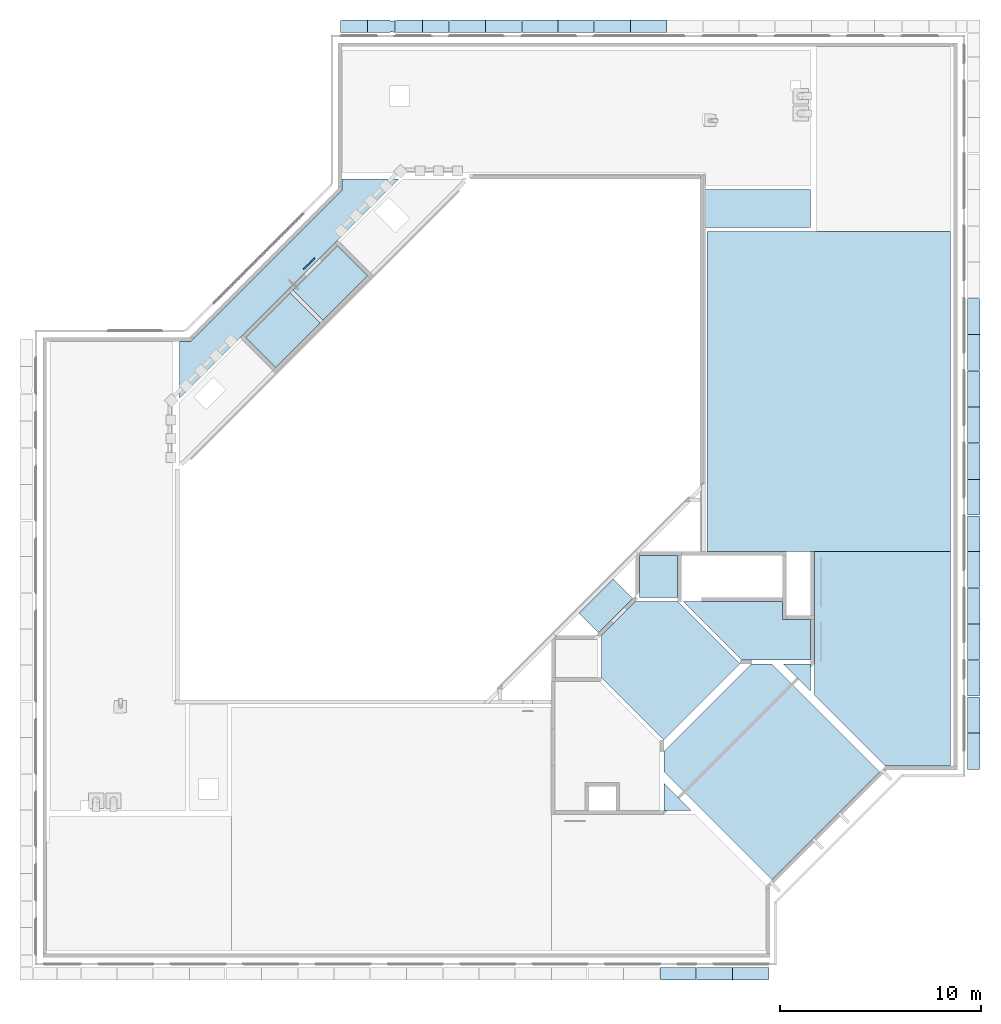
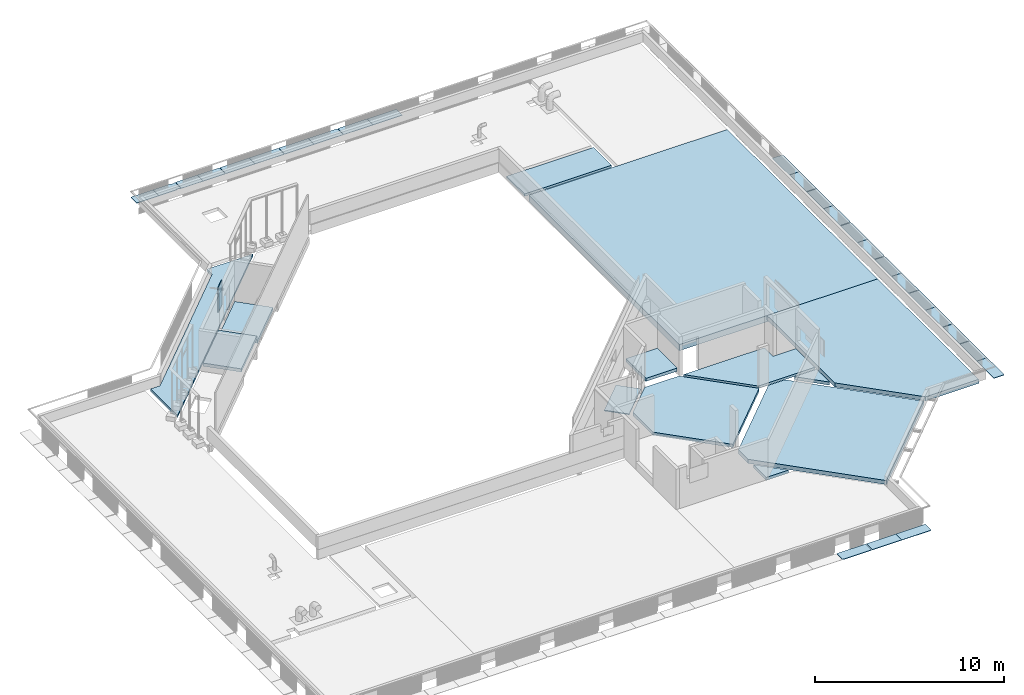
# One storey, part 6 of 37: 39 slabs, 1 plate.
"""IFC4X3_ADD2 building model written with IfcOpenShell, lengths in millimetres."""

from ifc_helpers import new_model, si_unit, direction, frame, frame_2d, origin_with_axes, origin_2d_with_axis, place, context, subcontext, project, spatial, polyline, rectangle, outline, extrude, source, transform, mapped, material, type_object, element, save


model = new_model("IFC4X3_ADD2")

# Units and contexts
model_context = context("Model", 3, precision=1e-05, world=origin_with_axes(), true_north=direction((0.0, 1.0)))
body_context = subcontext(model_context, "Body", "Model", "MODEL_VIEW")
ifc_project = project(units=[si_unit("LENGTHUNIT", "METRE", prefix="MILLI"), si_unit("AREAUNIT", "SQUARE_METRE"), si_unit("VOLUMEUNIT", "CUBIC_METRE"), si_unit("PLANEANGLEUNIT", "RADIAN"), si_unit("TIMEUNIT", "SECOND"), si_unit("MASSUNIT", "GRAM")], contexts=[model_context])

# Site, building, storey
site_placement = place(None, origin_with_axes())
site = spatial("IfcSite", under=ifc_project, at=site_placement, Name="Site", CompositionType="ELEMENT")
building_placement = place(site_placement, origin_with_axes())
building = spatial("IfcBuilding", under=site, at=building_placement, Name="IFC Building Story")
storey_placement = place(building_placement, frame((0.0, 0.0, 14400.0), z_axis=(0.0, 0.0, 1.0), x_axis=(1.0, 0.0, 0.0)))
storey = spatial("IfcBuildingStorey", under=building, at=storey_placement, Name="040", Elevation=14400.0)

# Slabs
ifc_material_1 = material(Name="BB_Beton_Bestaand")
slab_type_1 = type_object("IfcSlabType", Name="BB_Beton_Bestaand 200", PredefinedType="FLOOR", material=ifc_material_1)
slab_1_placement = place(storey_placement, frame((-33073.67225995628, 32939.32197153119, 0.0), z_axis=(0.0, 0.0, 1.0), x_axis=(-0.7071067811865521, -0.707106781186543, 0.0)))
element("IfcSlab", 1, at=slab_1_placement, inside=storey, type_object=slab_type_1, Name="Floor:BB_XX_Vloer uit beton, 200 mm", ObjectType="Floor:BB_XX_Vloer uit beton, 200 mm", PredefinedType="FLOOR", context=body_context, shape_type="SweptSolid", body=[
    extrude(rectangle(XDim=3140.000000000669, YDim=2099.999999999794, at=frame_2d((0.0, 0.0), x_axis=(-1.0, 0.0))), frame((1570.000000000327, 1049.999999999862, 0.0), z_axis=(0.0, 0.0, 1.0), x_axis=(1.0, 0.0, 0.0)), (0.0, 0.0, 1.0), 200.0),
])
slab_2_placement = place(storey_placement, frame((-8567.695526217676, 14499.99999999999, -400.0), z_axis=(0.0, 0.0, 1.0), x_axis=(0.7071067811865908, -0.7071067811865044, 0.0)))
element("IfcSlab", 2, at=slab_2_placement, inside=storey, type_object=slab_type_1, Name="Floor:BB_XX_Vloer uit beton, 200 mm", ObjectType="Floor:BB_XX_Vloer uit beton, 200 mm", PredefinedType="FLOOR", context=body_context, shape_type="SweptSolid", body=[
    extrude(outline(polyline([(967.10678118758, -322.3689270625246), (-967.10678118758, -322.3689270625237), (0.0, 644.7378541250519), (967.10678118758, -322.3689270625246)])), frame((967.10678118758, 322.3689270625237, 0.0), z_axis=(0.0, 0.0, 1.0), x_axis=(1.0, 0.0, 0.0)), (0.0, 0.0, 1.0), 200.0),
])
slab_3_placement = place(storey_placement, frame((-18649.99999999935, 14864.99999999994, -400.0), z_axis=(0.0, 0.0, 1.0), x_axis=(0.7071067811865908, -0.7071067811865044, 0.0)))
element("IfcSlab", 3, at=slab_3_placement, inside=storey, type_object=slab_type_1, Name="Floor:BB_XX_Vloer welfsels, 200 mm", ObjectType="Floor:BB_XX_Vloer welfsels, 200 mm", PredefinedType="FLOOR", context=body_context, shape_type="SweptSolid", body=[
    extrude(outline(polyline([(3417.682775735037, 2676.399166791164), (3417.682775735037, -2676.399166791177), (-966.3792676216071, -2676.399166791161), (-2451.303508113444, -1191.474926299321), (-2451.303508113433, 1191.474926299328), (-966.379267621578, 2676.399166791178), (3417.682775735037, 2676.399166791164)])), frame((2451.303508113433, 2676.399166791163, 1.818989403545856e-12), z_axis=(0.0, 0.0, 1.0), x_axis=(1.0, 0.0, 0.0)), (0.0, 0.0, 1.0), 200.0),
])
slab_4_placement = place(storey_placement, frame((-15725.0, 19899.99999999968, 0.0), z_axis=(0.0, 0.0, 1.0), x_axis=(0.0, -1.0, 0.0)))
element("IfcSlab", 4, at=slab_4_placement, inside=storey, type_object=slab_type_1, Name="Floor:BB_XX_Vloer uit beton, 200 mm", ObjectType="Floor:BB_XX_Vloer uit beton, 200 mm", PredefinedType="FLOOR", context=body_context, shape_type="SweptSolid", body=[
    extrude(rectangle(XDim=2109.999999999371, YDim=1910.000000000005, at=frame_2d((0.0, 0.0), x_axis=(-1.0, 0.0))), frame((1054.999999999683, 955.0000000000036, 0.0), z_axis=(0.0, 0.0, 1.0), x_axis=(1.0, 0.0, 0.0)), (0.0, 0.0, 1.0), 200.0),
])
slab_5_placement = place(storey_placement, frame((-30719.00667860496, 35293.98755288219, -400.0), z_axis=(0.0, 0.0, 1.0), x_axis=(-0.7071067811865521, -0.707106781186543, 0.0)))
element("IfcSlab", 5, at=slab_5_placement, inside=storey, type_object=slab_type_1, Name="Floor:BB_XX_Vloer uit beton, 200 mm", ObjectType="Floor:BB_XX_Vloer uit beton, 200 mm", PredefinedType="FLOOR", context=body_context, shape_type="SweptSolid", body=[
    extrude(rectangle(XDim=3139.999999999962, YDim=2099.99999999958, at=frame_2d((0.0, 0.0), x_axis=(-1.0, 0.0))), frame((1569.999999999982, 1049.999999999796, 0.0), z_axis=(0.0, 0.0, 1.0), x_axis=(1.0, 0.0, 0.0)), (0.0, 0.0, 1.0), 200.0),
])
slab_6_placement = place(storey_placement, frame((-15182.69111140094, 7882.691111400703, -400.0), z_axis=(0.0, 0.0, 1.0), x_axis=(0.7071067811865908, -0.7071067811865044, 0.0)))
element("IfcSlab", 6, at=slab_6_placement, inside=storey, type_object=slab_type_1, Name="Floor:BB_XX_Vloer uit beton, 200 mm", ObjectType="Floor:BB_XX_Vloer uit beton, 200 mm", PredefinedType="FLOOR", context=body_context, shape_type="SweptSolid", body=[
    extrude(outline(polyline([(-965.4710286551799, 321.8236762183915), (965.4710286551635, 321.8236762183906), (2.000888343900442e-11, -643.6473524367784), (-965.4710286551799, 321.8236762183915)])), frame((965.4710286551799, 643.6473524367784, 0.0), z_axis=(0.0, 0.0, 1.0), x_axis=(1.0, 0.0, 0.0)), (0.0, 0.0, 1.0), 200.0),
])
slab_type_2 = type_object("IfcSlabType", Name="BB_Beton_Bestaand 400", PredefinedType="FLOOR", material=ifc_material_1)
slab_7_placement = place(storey_placement, frame((-12355.00406588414, 36000.0000000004, -600.0), z_axis=(0.0, 0.0, 1.0), x_axis=(0.0, -1.0, 0.0)))
element("IfcSlab", 7, at=slab_7_placement, inside=storey, type_object=slab_type_2, Name="Floor:BB_XX_Vloer welfsels, 400 mm", ObjectType="Floor:BB_XX_Vloer welfsels, 400 mm", PredefinedType="FLOOR", context=body_context, shape_type="SweptSolid", body=[
    extrude(rectangle(XDim=15900.00000000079, YDim=12110.0040658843, at=frame_2d((0.0, 0.0), x_axis=(-1.0, 0.0))), frame((7950.0000000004, 6055.002032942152, 0.0), z_axis=(0.0, 0.0, 1.0), x_axis=(1.0, 0.0, 0.0)), (0.0, 0.0, 1.0), 400.0),
])

# Plate
ifc_material_2 = material(Name="BB_Metaal_Aluminium_Buitenschrijnwerk")
shared_shape = source(origin_with_axes(), body_context, "Body", "SweptSolid", [
    extrude(rectangle(XDim=1585.000000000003, YDim=778.000000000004, at=frame_2d((0.0, 0.0), x_axis=(0.0, 1.0))), frame((0.0, 0.0, -44.0), z_axis=(0.0, 0.0, 1.0), x_axis=(1.0, 0.0, 0.0)), (0.0, 0.0, 1.0), 44.0),
])
plate_placement = place(storey_placement, frame((-32157.2618715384, 34420.0035713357, 1176.5), z_axis=(-0.7071067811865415, 0.7071067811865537, 0.0), x_axis=(0.7071067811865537, 0.7071067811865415, 0.0)))
element("IfcPlate", 8, at=plate_placement, inside=storey, material=ifc_material_2, Name="BB_07.06_Buitenbeglazing, rechthoekig_GMO:07.04.63#01_Vulpaneel, 44 mm", ObjectType="BB_07.06_Buitenbeglazing, rechthoekig_GMO:07.04.63#01_Vulpaneel, 44 mm", PredefinedType="USERDEFINED", context=body_context, shape_type="MappedRepresentation", body=[
    mapped(shared_shape, transform((0.0, 0.0, 0.0))),
])

# Slabs
slab_type_3 = type_object("IfcSlabType", Name="BB_Beton_Bestaand 260", PredefinedType="FLOOR", material=ifc_material_1)
slab_8_placement = place(storey_placement, frame((-15009.12346364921, 9640.191111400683, -459.9999999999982), z_axis=(0.0, 0.0, 1.0), x_axis=(0.7071067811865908, -0.7071067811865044, 0.0)))
element("IfcSlab", 9, at=slab_8_placement, inside=storey, type_object=slab_type_3, Name="Floor:BB_XX_Vloer welfsels, 260 mm", ObjectType="Floor:BB_XX_Vloer welfsels, 260 mm", PredefinedType="FLOOR", context=body_context, shape_type="SweptSolid", body=[
    extrude(outline(polyline([(5300.035869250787, 3795.317972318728), (5300.035869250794, -3795.863223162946), (-2289.604342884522, -3795.863223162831), (-3009.613650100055, -3075.853915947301), (-3009.613650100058, 3076.944417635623), (-2291.240095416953, 3795.317972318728), (5300.035869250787, 3795.317972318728)])), frame((3009.613650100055, 3795.863223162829, 1.818989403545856e-12), z_axis=(0.0, 0.0, 1.0), x_axis=(1.0, 0.0, 0.0)), (0.0, 0.0, 1.0), 259.999999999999),
])
slab_9_placement = place(storey_placement, frame((-6999.99999999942, 20099.99999999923, -459.9999999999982), z_axis=(0.0, 0.0, 1.0), x_axis=(0.0, -1.0, 0.0)))
element("IfcSlab", 10, at=slab_9_placement, inside=storey, type_object=slab_type_3, Name="Floor:BB_XX_Vloer welfsels, 260 mm", ObjectType="Floor:BB_XX_Vloer welfsels, 260 mm", PredefinedType="FLOOR", context=body_context, shape_type="SweptSolid", body=[
    extrude(outline(polyline([(4977.460894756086, 3349.539105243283), (4977.460894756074, 111.8435790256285), (1460.156420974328, -3405.460894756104), (-5707.539105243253, -3405.460894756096), (-5707.539105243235, 3349.539105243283), (4977.460894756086, 3349.539105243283)])), frame((5707.539105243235, 3405.460894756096, 1.818989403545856e-12), z_axis=(0.0, 0.0, 1.0), x_axis=(1.0, 0.0, 0.0)), (0.0, 0.0, 1.0), 259.999999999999),
])
slab_type_4 = type_object("IfcSlabType", Name="BB_Beton_Bestaand 150", PredefinedType="FLOOR", material=ifc_material_1)
slab_10_placement = place(storey_placement, frame((-29110.35337488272, 40024.5164309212, -350.0000000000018), z_axis=(0.0, 0.0, 1.0), x_axis=(-0.7071067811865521, -0.707106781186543, 0.0)))
element("IfcSlab", 11, at=slab_10_placement, inside=storey, type_object=slab_type_4, Name="Floor:BB_XX_Vloer uit beton, 150 mm", ObjectType="Floor:BB_XX_Vloer uit beton, 150 mm", PredefinedType="FLOOR", context=body_context, shape_type="SweptSolid", body=[
    extrude(outline(polyline([(-5715.253913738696, -788.6609279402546), (-7705.167694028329, 1201.252852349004), (7722.718653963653, 1201.252852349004), (5715.219265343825, -806.2465362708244), (5312.823821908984, -403.8510928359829), (-5330.340133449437, -403.7471476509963), (-5715.253913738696, -788.6609279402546)])), frame((7705.167694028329, 806.2465362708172, 0.0), z_axis=(0.0, 0.0, 1.0), x_axis=(1.0, 0.0, 0.0)), (0.0, 0.0, 1.0), 150.0),
])
slab_11_placement = place(storey_placement, frame((-13546.29942314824, 14700.0, -350.0000000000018), z_axis=(0.0, 0.0, 1.0), x_axis=(1.0, 0.0, 0.0)))
element("IfcSlab", 12, at=slab_11_placement, inside=storey, type_object=slab_type_4, Name="Floor:BB_XX_Vloer uit beton, 150 mm", ObjectType="Floor:BB_XX_Vloer uit beton, 150 mm", PredefinedType="FLOOR", context=body_context, shape_type="SweptSolid", body=[
    extrude(outline(polyline([(698.766474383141, 366.6666666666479), (2098.766474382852, 366.6666666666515), (2098.766474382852, -1633.333333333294), (-1347.532948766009, -1633.333333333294), (-4247.532948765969, 1266.666666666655), (698.7664743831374, 1266.666666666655), (698.766474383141, 366.6666666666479)])), frame((4247.532948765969, 1633.333333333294, 0.0), z_axis=(0.0, 0.0, 1.0), x_axis=(1.0, 0.0, 0.0)), (0.0, 0.0, 1.0), 150.0),
])
slab_12_placement = place(storey_placement, frame((-12500.00406588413, 36199.99999999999, -350.0000000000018), z_axis=(0.0, 0.0, 1.0), x_axis=(1.0, 0.0, 0.0)))
element("IfcSlab", 13, at=slab_12_placement, inside=storey, type_object=slab_type_4, Name="Floor:BB_XX_Vloer uit beton, 150 mm", ObjectType="Floor:BB_XX_Vloer uit beton, 150 mm", PredefinedType="FLOOR", context=body_context, shape_type="SweptSolid", body=[
    extrude(rectangle(XDim=5300.004065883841, YDim=1900.000000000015, at=origin_2d_with_axis()), frame((2650.00203294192, 950.0000000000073, 0.0), z_axis=(0.0, 0.0, 1.0), x_axis=(1.0, 0.0, 0.0)), (0.0, 0.0, 1.0), 150.000000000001),
])
ifc_material_3 = material(Name="Steel, Galvanized - looprooster")
slab_type_5 = type_object("IfcSlabType", Name="Steel, Galvanized - looprooster 30", PredefinedType="FLOOR", material=ifc_material_3)
slab_13_placement = place(storey_placement, frame((-12884.99996372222, -1219.998741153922, -350.0), z_axis=(0.0, 0.0, 1.0), x_axis=(1.0, 0.0, 0.0)))
element("IfcSlab", 14, at=slab_13_placement, inside=storey, type_object=slab_type_5, Name="Floor:GVH - Looprooster 30 mm", ObjectType="Floor:GVH - Looprooster 30 mm", PredefinedType="FLOOR", context=body_context, shape_type="SweptSolid", body=[
    extrude(outline(polyline([(-565.9993333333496, -214.9999999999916), (-565.9993333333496, -200.0000000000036), (-617.9993333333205, -200.0000000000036), (-617.9993333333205, 414.9999999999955), (1183.998666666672, 414.9999999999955), (1183.998666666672, -214.9999999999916), (-565.9993333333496, -214.9999999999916)])), frame((617.9993333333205, 214.9999999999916, 0.0), z_axis=(0.0, 0.0, 1.0), x_axis=(1.0, 0.0, 0.0)), (0.0, 0.0, 1.0), 29.99999999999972),
])
slab_14_placement = place(storey_placement, frame((-11081.99810681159, -1220.001029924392, -350.0), z_axis=(0.0, 0.0, 1.0), x_axis=(1.0, 0.0, 0.0)))
element("IfcSlab", 15, at=slab_14_placement, inside=storey, type_object=slab_type_5, Name="Floor:GVH - Looprooster 30 mm", ObjectType="Floor:GVH - Looprooster 30 mm", PredefinedType="FLOOR", context=body_context, shape_type="SweptSolid", body=[
    extrude(outline(polyline([(542.666095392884, -200.0000000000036), (542.666095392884, -214.9999999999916), (-1172.332047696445, -214.9999999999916), (-1172.332047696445, 414.9999999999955), (629.6659523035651, 414.9999999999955), (629.6659523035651, -200.0000000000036), (542.666095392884, -200.0000000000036)])), frame((1172.332047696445, 214.9999999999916, 0.0), z_axis=(0.0, 0.0, 1.0), x_axis=(1.0, 0.0, 0.0)), (0.0, 0.0, 1.0), 29.99999999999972),
])
slab_15_placement = place(storey_placement, frame((-14684.9999637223, -1219.998741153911, -350.0), z_axis=(0.0, 0.0, 1.0), x_axis=(1.0, 0.0, 0.0)))
element("IfcSlab", 16, at=slab_15_placement, inside=storey, type_object=slab_type_5, Name="Floor:GVH - Looprooster 30 mm", ObjectType="Floor:GVH - Looprooster 30 mm", PredefinedType="FLOOR", context=body_context, shape_type="SweptSolid", body=[
    extrude(outline(polyline([(-833.0000000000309, -165.0), (-833.0000000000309, -150.0000000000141), (-885.0000000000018, -150.0000000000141), (-885.0000000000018, 464.999999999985), (885.00000000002, 464.999999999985), (885.00000000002, -149.99999999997), (833.0000000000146, -149.99999999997), (833.0000000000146, -165.0), (-833.0000000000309, -165.0)])), frame((885.0000000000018, 165.0, 0.0), z_axis=(0.0, 0.0, 1.0), x_axis=(1.0, 0.0, 0.0)), (0.0, 0.0, 1.0), 29.99999999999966),
])
slab_16_placement = place(storey_placement, frame((-30585.00374026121, 45890.00125884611, -350.0), z_axis=(0.0, 0.0, 1.0), x_axis=(1.0, 0.0, 0.0)))
element("IfcSlab", 17, at=slab_16_placement, inside=storey, type_object=slab_type_5, Name="Floor:GVH - Looprooster 30 mm", ObjectType="Floor:GVH - Looprooster 30 mm", PredefinedType="FLOOR", context=body_context, shape_type="SweptSolid", body=[
    extrude(outline(polyline([(872.9986320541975, 214.9999999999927), (872.9986320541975, -415.0), (-478.9993679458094, -415.0), (-478.9993679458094, 199.9999999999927), (-393.9992641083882, 200.0), (-393.9992641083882, 214.9999999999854), (872.9986320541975, 214.9999999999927)])), frame((478.9993679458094, 415.0, 0.0), z_axis=(0.0, 0.0, 1.0), x_axis=(1.0, 0.0, 0.0)), (0.0, 0.0, 1.0), 29.99999999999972),
])
slab_17_placement = place(storey_placement, frame((-29232.00163642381, 45890.00125884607, -350.0), z_axis=(0.0, 0.0, 1.0), x_axis=(1.0, 0.0, 0.0)))
element("IfcSlab", 18, at=slab_17_placement, inside=storey, type_object=slab_type_5, Name="Floor:GVH - Looprooster 30 mm", ObjectType="Floor:GVH - Looprooster 30 mm", PredefinedType="FLOOR", context=body_context, shape_type="SweptSolid", body=[
    extrude(outline(polyline([(85.33480008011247, -267.4971623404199), (85.33480008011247, -312.5005675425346), (-1026.666800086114, -312.5005675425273), (-1026.66680008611, 317.4994324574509), (85.33480009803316, 317.4994324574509), (85.33480009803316, 272.4994325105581), (275.3311999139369, 272.4994325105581), (275.3311999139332, 302.4994324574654), (325.3311999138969, 302.4994324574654), (325.3311999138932, -312.5005675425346), (255.334800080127, -312.5005675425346), (255.334800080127, -267.4971623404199), (85.33480008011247, -267.4971623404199)])), frame((1026.66680008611, 312.5005675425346, 0.0), z_axis=(0.0, 0.0, 1.0), x_axis=(1.0, 0.0, 0.0)), (0.0, 0.0, 1.0), 29.9999999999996),
])
slab_18_placement = place(storey_placement, frame((-27850.00363642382, 45890.00125884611, -350.0), z_axis=(0.0, 0.0, 1.0), x_axis=(1.0, 0.0, 0.0)))
element("IfcSlab", 19, at=slab_18_placement, inside=storey, type_object=slab_type_5, Name="Floor:GVH - Looprooster 30 mm", ObjectType="Floor:GVH - Looprooster 30 mm", PredefinedType="FLOOR", context=body_context, shape_type="SweptSolid", body=[
    extrude(outline(polyline([(872.6679999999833, 214.9999999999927), (872.6679999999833, -414.9999999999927), (-462.3340000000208, -414.9999999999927), (-462.3340000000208, 200.0), (-410.3339999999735, 200.0000000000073), (-410.3339999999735, 214.9999999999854), (872.6679999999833, 214.9999999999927)])), frame((462.3340000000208, 414.9999999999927, 0.0), z_axis=(0.0, 0.0, 1.0), x_axis=(1.0, 0.0, 0.0)), (0.0, 0.0, 1.0), 29.99999999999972),
])
slab_19_placement = place(storey_placement, frame((-26515.00163642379, 45890.0012588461, -350.0), z_axis=(0.0, 0.0, 1.0), x_axis=(1.0, 0.0, 0.0)))
element("IfcSlab", 20, at=slab_19_placement, inside=storey, type_object=slab_type_5, Name="Floor:GVH - Looprooster 30 mm", ObjectType="Floor:GVH - Looprooster 30 mm", PredefinedType="FLOOR", context=body_context, shape_type="SweptSolid", body=[
    extrude(outline(polyline([(462.3340000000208, 200.0), (462.3340000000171, -415.0), (-872.6679999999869, -415.0), (-872.6679999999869, 214.9999999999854), (410.3339999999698, 215.0), (410.3339999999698, 200.0), (462.3340000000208, 200.0)])), frame((872.6679999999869, 415.0, 0.0), z_axis=(0.0, 0.0, 1.0), x_axis=(1.0, 0.0, 0.0)), (0.0, 0.0, 1.0), 29.99999999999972),
])
slab_20_placement = place(storey_placement, frame((-25150.00363642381, 45890.0012588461, -350.0), z_axis=(0.0, 0.0, 1.0), x_axis=(1.0, 0.0, 0.0)))
element("IfcSlab", 21, at=slab_20_placement, inside=storey, type_object=slab_type_5, Name="Floor:GVH - Looprooster 30 mm", ObjectType="Floor:GVH - Looprooster 30 mm", PredefinedType="FLOOR", context=body_context, shape_type="SweptSolid", body=[
    extrude(outline(polyline([(1172.667999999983, 214.9999999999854), (1172.66799999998, -415.0000000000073), (-612.3340000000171, -415.0000000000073), (-612.3340000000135, 199.9999999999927), (-560.3339999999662, 199.9999999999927), (-560.3339999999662, 214.9999999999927), (1172.667999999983, 214.9999999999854)])), frame((612.3340000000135, 415.0000000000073, 0.0), z_axis=(0.0, 0.0, 1.0), x_axis=(1.0, 0.0, 0.0)), (0.0, 0.0, 1.0), 29.99999999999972),
])
slab_21_placement = place(storey_placement, frame((-23365.00163642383, 45890.00125884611, -350.0), z_axis=(0.0, 0.0, 1.0), x_axis=(1.0, 0.0, 0.0)))
element("IfcSlab", 22, at=slab_21_placement, inside=storey, type_object=slab_type_5, Name="Floor:GVH - Looprooster 30 mm", ObjectType="Floor:GVH - Looprooster 30 mm", PredefinedType="FLOOR", context=body_context, shape_type="SweptSolid", body=[
    extrude(outline(polyline([(612.3326666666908, 200.0000000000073), (612.3326666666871, -414.9999999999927), (-1172.665333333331, -414.9999999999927), (-1172.665333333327, 214.9999999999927), (560.3326666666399, 214.9999999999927), (560.3326666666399, 200.0), (612.3326666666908, 200.0000000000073)])), frame((1172.665333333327, 414.9999999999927, 0.0), z_axis=(0.0, 0.0, 1.0), x_axis=(1.0, 0.0, 0.0)), (0.0, 0.0, 1.0), 29.99999999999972),
])
slab_22_placement = place(storey_placement, frame((-21550.00363642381, 45890.0012588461, -350.0), z_axis=(0.0, 0.0, 1.0), x_axis=(1.0, 0.0, 0.0)))
element("IfcSlab", 23, at=slab_22_placement, inside=storey, type_object=slab_type_5, Name="Floor:GVH - Looprooster 30 mm", ObjectType="Floor:GVH - Looprooster 30 mm", PredefinedType="FLOOR", context=body_context, shape_type="SweptSolid", body=[
    extrude(outline(polyline([(1172.667999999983, 214.9999999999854), (1172.66799999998, -415.0000000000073), (-612.3340000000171, -415.0000000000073), (-612.3340000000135, 199.9999999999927), (-560.3339999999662, 199.9999999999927), (-560.3339999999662, 214.9999999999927), (1172.667999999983, 214.9999999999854)])), frame((612.3340000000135, 415.0000000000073, 0.0), z_axis=(0.0, 0.0, 1.0), x_axis=(1.0, 0.0, 0.0)), (0.0, 0.0, 1.0), 29.99999999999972),
])
slab_23_placement = place(storey_placement, frame((-19765.00163642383, 45890.0012588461, -350.0), z_axis=(0.0, 0.0, 1.0), x_axis=(1.0, 0.0, 0.0)))
element("IfcSlab", 24, at=slab_23_placement, inside=storey, type_object=slab_type_5, Name="Floor:GVH - Looprooster 30 mm", ObjectType="Floor:GVH - Looprooster 30 mm", PredefinedType="FLOOR", context=body_context, shape_type="SweptSolid", body=[
    extrude(outline(polyline([(612.3326666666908, 200.0000000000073), (612.3326666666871, -414.9999999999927), (-1172.665333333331, -414.9999999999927), (-1172.665333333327, 214.9999999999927), (560.3326666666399, 214.9999999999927), (560.3326666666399, 200.0), (612.3326666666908, 200.0000000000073)])), frame((1172.665333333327, 414.9999999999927, 0.0), z_axis=(0.0, 0.0, 1.0), x_axis=(1.0, 0.0, 0.0)), (0.0, 0.0, 1.0), 29.99999999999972),
])
slab_24_placement = place(storey_placement, frame((-17950.00363642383, 45890.0012588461, -350.0), z_axis=(0.0, 0.0, 1.0), x_axis=(1.0, 0.0, 0.0)))
element("IfcSlab", 25, at=slab_24_placement, inside=storey, type_object=slab_type_5, Name="Floor:GVH - Looprooster 30 mm", ObjectType="Floor:GVH - Looprooster 30 mm", PredefinedType="FLOOR", context=body_context, shape_type="SweptSolid", body=[
    extrude(outline(polyline([(1175.332000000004, 214.9999999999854), (1175.332000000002, -415.0000000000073), (-613.6660000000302, -415.0000000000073), (-613.6660000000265, 199.9999999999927), (-561.6659999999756, 199.9999999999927), (-561.6659999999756, 214.9999999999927), (1175.332000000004, 214.9999999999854)])), frame((613.6660000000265, 415.0000000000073, 0.0), z_axis=(0.0, 0.0, 1.0), x_axis=(1.0, 0.0, 0.0)), (0.0, 0.0, 1.0), 29.99999999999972),
])
slab_25_placement = place(storey_placement, frame((-16159.5036364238, 45890.00125884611, -350.0), z_axis=(0.0, 0.0, 1.0), x_axis=(1.0, 0.0, 0.0)))
element("IfcSlab", 26, at=slab_25_placement, inside=storey, type_object=slab_type_5, Name="Floor:GVH - Looprooster 30 mm", ObjectType="Floor:GVH - Looprooster 30 mm", PredefinedType="FLOOR", context=body_context, shape_type="SweptSolid", body=[
    extrude(rectangle(XDim=1788.999999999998, YDim=629.9999999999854, at=origin_2d_with_axis()), frame((894.5, 314.9999999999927, 0.0), z_axis=(0.0, 0.0, 1.0), x_axis=(1.0, 0.0, 0.0)), (0.0, 0.0, 1.0), 29.99999999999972),
])
slab_26_placement = place(storey_placement, frame((589.988397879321, 32665.00000002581, -350.0), z_axis=(0.0, 0.0, 1.0), x_axis=(0.0, -1.0, 0.0)))
element("IfcSlab", 27, at=slab_26_placement, inside=storey, type_object=slab_type_5, Name="Floor:GVH - Looprooster 30 mm", ObjectType="Floor:GVH - Looprooster 30 mm", PredefinedType="FLOOR", context=body_context, shape_type="SweptSolid", body=[
    extrude(outline(polyline([(-536.9993333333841, 215.19120349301), (1160.998666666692, 215.19120349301), (1160.998666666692, -415.326471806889), (-623.9993333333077, -415.326471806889), (-623.9993333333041, 200.135268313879), (-536.9993333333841, 200.135268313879), (-536.9993333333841, 215.19120349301)])), frame((623.9993333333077, 415.326471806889, 0.0), z_axis=(0.0, 0.0, 1.0), x_axis=(1.0, 0.0, 0.0)), (0.0, 0.0, 1.0), 29.99999999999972),
])
slab_27_placement = place(storey_placement, frame((589.988397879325, 30880.00200002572, -350.0), z_axis=(0.0, 0.0, 1.0), x_axis=(0.0, -1.0, 0.0)))
element("IfcSlab", 28, at=slab_27_placement, inside=storey, type_object=slab_type_5, Name="Floor:GVH - Looprooster 30 mm", ObjectType="Floor:GVH - Looprooster 30 mm", PredefinedType="FLOOR", context=body_context, shape_type="SweptSolid", body=[
    extrude(outline(polyline([(560.3340120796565, 199.9828995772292), (612.3340120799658, 199.9828995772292), (612.3340120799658, -415.2514318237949), (-1172.668024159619, -415.2514318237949), (-1172.668024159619, 215.268532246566), (560.3340120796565, 215.2685322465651), (560.3340120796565, 199.9828995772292)])), frame((1172.668024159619, 415.2514318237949, 0.0), z_axis=(0.0, 0.0, 1.0), x_axis=(1.0, 0.0, 0.0)), (0.0, 0.0, 1.0), 29.99999999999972),
])
slab_28_placement = place(storey_placement, frame((589.988397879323, 29064.99999998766, -350.0), z_axis=(0.0, 0.0, 1.0), x_axis=(0.0, -1.0, 0.0)))
element("IfcSlab", 29, at=slab_28_placement, inside=storey, type_object=slab_type_5, Name="Floor:GVH - Looprooster 30 mm", ObjectType="Floor:GVH - Looprooster 30 mm", PredefinedType="FLOOR", context=body_context, shape_type="SweptSolid", body=[
    extrude(outline(polyline([(-560.3326666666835, 215.2670063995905), (1172.665333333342, 215.2670063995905), (1172.665333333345, -415.2506689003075), (-612.3326666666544, -415.2506689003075), (-612.3326666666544, 199.9836625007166), (-560.3326666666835, 199.9836625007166), (-560.3326666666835, 215.2670063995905)])), frame((612.3326666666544, 415.2506689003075, 0.0), z_axis=(0.0, 0.0, 1.0), x_axis=(1.0, 0.0, 0.0)), (0.0, 0.0, 1.0), 29.99999999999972),
])
slab_29_placement = place(storey_placement, frame((589.988397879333, 27280.00199998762, -350.0), z_axis=(0.0, 0.0, 1.0), x_axis=(0.0, -1.0, 0.0)))
element("IfcSlab", 30, at=slab_29_placement, inside=storey, type_object=slab_type_5, Name="Floor:GVH - Looprooster 30 mm", ObjectType="Floor:GVH - Looprooster 30 mm", PredefinedType="FLOOR", context=body_context, shape_type="SweptSolid", body=[
    extrude(outline(polyline([(560.3340120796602, 200.049054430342), (612.3340120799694, 200.049054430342), (612.3340120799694, -415.2845092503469), (-1172.668024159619, -415.2845092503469), (-1172.668024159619, 215.2354548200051), (560.3340120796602, 215.2354548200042), (560.3340120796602, 200.049054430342)])), frame((1172.668024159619, 415.2845092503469, 0.0), z_axis=(0.0, 0.0, 1.0), x_axis=(1.0, 0.0, 0.0)), (0.0, 0.0, 1.0), 29.99999999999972),
])
slab_30_placement = place(storey_placement, frame((589.988397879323, 25464.99999998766, -350.0), z_axis=(0.0, 0.0, 1.0), x_axis=(0.0, -1.0, 0.0)))
element("IfcSlab", 31, at=slab_30_placement, inside=storey, type_object=slab_type_5, Name="Floor:GVH - Looprooster 30 mm", ObjectType="Floor:GVH - Looprooster 30 mm", PredefinedType="FLOOR", context=body_context, shape_type="SweptSolid", body=[
    extrude(outline(polyline([(-560.3326666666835, 215.233928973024), (1172.665333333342, 215.2339289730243), (1172.665333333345, -415.2837463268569), (-612.3326666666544, -415.2837463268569), (-612.3326666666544, 200.0498173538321), (-560.3326666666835, 200.049817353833), (-560.3326666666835, 215.233928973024)])), frame((612.3326666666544, 415.2837463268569, 0.0), z_axis=(0.0, 0.0, 1.0), x_axis=(1.0, 0.0, 0.0)), (0.0, 0.0, 1.0), 29.99999999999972),
])
slab_31_placement = place(storey_placement, frame((589.988397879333, 23680.00199998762, -350.0), z_axis=(0.0, 0.0, 1.0), x_axis=(0.0, -1.0, 0.0)))
element("IfcSlab", 32, at=slab_31_placement, inside=storey, type_object=slab_type_5, Name="Floor:GVH - Looprooster 30 mm", ObjectType="Floor:GVH - Looprooster 30 mm", PredefinedType="FLOOR", context=body_context, shape_type="SweptSolid", body=[
    extrude(outline(polyline([(560.3340120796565, 200.0490544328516), (612.3340120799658, 200.0490544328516), (612.3340120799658, -415.2845092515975), (-1172.668024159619, -415.2845092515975), (-1172.668024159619, 215.2354548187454), (560.3340120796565, 215.2354548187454), (560.3340120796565, 200.0490544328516)])), frame((1172.668024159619, 415.2845092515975, 0.0), z_axis=(0.0, 0.0, 1.0), x_axis=(1.0, 0.0, 0.0)), (0.0, 0.0, 1.0), 29.99999999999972),
])
slab_32_placement = place(storey_placement, frame((589.98839787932, 21864.99999998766, -350.0), z_axis=(0.0, 0.0, 1.0), x_axis=(0.0, -1.0, 0.0)))
element("IfcSlab", 33, at=slab_32_placement, inside=storey, type_object=slab_type_5, Name="Floor:GVH - Looprooster 30 mm", ObjectType="Floor:GVH - Looprooster 30 mm", PredefinedType="FLOOR", context=body_context, shape_type="SweptSolid", body=[
    extrude(outline(polyline([(-560.3326666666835, 215.2339289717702), (1172.665333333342, 215.2339289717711), (1172.665333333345, -415.2837463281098), (-612.3326666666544, -415.2837463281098), (-612.3326666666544, 200.0498173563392), (-560.3326666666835, 200.0498173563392), (-560.3326666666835, 215.2339289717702)])), frame((612.3326666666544, 415.2837463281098, 0.0), z_axis=(0.0, 0.0, 1.0), x_axis=(1.0, 0.0, 0.0)), (0.0, 0.0, 1.0), 29.99999999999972),
])
slab_33_placement = place(storey_placement, frame((589.9883978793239, 20080.00199998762, -350.0), z_axis=(0.0, 0.0, 1.0), x_axis=(0.0, -1.0, 0.0)))
element("IfcSlab", 34, at=slab_33_placement, inside=storey, type_object=slab_type_5, Name="Floor:GVH - Looprooster 30 mm", ObjectType="Floor:GVH - Looprooster 30 mm", PredefinedType="FLOOR", context=body_context, shape_type="SweptSolid", body=[
    extrude(outline(polyline([(560.3340120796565, 200.0826088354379), (612.3340120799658, 200.0826088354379), (612.3340120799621, -415.3012864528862), (-1172.668024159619, -415.3012864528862), (-1172.668024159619, 215.2186776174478), (560.3340120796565, 215.2186776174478), (560.3340120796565, 200.0826088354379)])), frame((1172.668024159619, 415.3012864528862, 0.0), z_axis=(0.0, 0.0, 1.0), x_axis=(1.0, 0.0, 0.0)), (0.0, 0.0, 1.0), 29.99999999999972),
])
slab_34_placement = place(storey_placement, frame((589.988397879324, 18264.99999998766, -350.0), z_axis=(0.0, 0.0, 1.0), x_axis=(0.0, -1.0, 0.0)))
element("IfcSlab", 35, at=slab_34_placement, inside=storey, type_object=slab_type_5, Name="Floor:GVH - Looprooster 30 mm", ObjectType="Floor:GVH - Looprooster 30 mm", PredefinedType="FLOOR", context=body_context, shape_type="SweptSolid", body=[
    extrude(outline(polyline([(-560.3326666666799, 215.2171517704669), (1172.665333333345, 215.2171517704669), (1172.665333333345, -415.3005235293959), (-612.3326666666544, -415.3005235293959), (-612.3326666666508, 200.0833717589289), (-560.3326666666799, 200.0833717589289), (-560.3326666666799, 215.2171517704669)])), frame((612.3326666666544, 415.3005235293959, 0.0), z_axis=(0.0, 0.0, 1.0), x_axis=(1.0, 0.0, 0.0)), (0.0, 0.0, 1.0), 29.99999999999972),
])
slab_35_placement = place(storey_placement, frame((589.988397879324, 16480.00199998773, -350.0), z_axis=(0.0, 0.0, 1.0), x_axis=(0.0, -1.0, 0.0)))
element("IfcSlab", 36, at=slab_35_placement, inside=storey, type_object=slab_type_5, Name="Floor:GVH - Looprooster 30 mm", ObjectType="Floor:GVH - Looprooster 30 mm", PredefinedType="FLOOR", context=body_context, shape_type="SweptSolid", body=[
    extrude(outline(polyline([(560.3340120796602, 200.1161632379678), (612.3340120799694, 200.1161632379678), (612.3340120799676, -415.3180636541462), (-1172.668024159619, -415.3180636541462), (-1172.66802415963, 215.2019004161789), (560.3340120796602, 215.201900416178), (560.3340120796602, 200.1161632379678)])), frame((1172.66802415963, 415.3180636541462, 0.0), z_axis=(0.0, 0.0, 1.0), x_axis=(1.0, 0.0, 0.0)), (0.0, 0.0, 1.0), 29.99999999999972),
])
slab_36_placement = place(storey_placement, frame((589.9883978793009, 12865.00003650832, -350.0), z_axis=(0.0, 0.0, 1.0), x_axis=(0.0, -1.0, 0.0)))
element("IfcSlab", 37, at=slab_36_placement, inside=storey, type_object=slab_type_5, Name="Floor:GVH - Looprooster 30 mm", ObjectType="Floor:GVH - Looprooster 30 mm", PredefinedType="FLOOR", context=body_context, shape_type="SweptSolid", body=[
    extrude(outline(polyline([(-565.9993333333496, 215.1717955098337), (1183.99866666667, 215.1717955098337), (1183.99866666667, -415.3435910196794), (-617.9993333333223, -415.3435910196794), (-617.9993333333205, 200.1717955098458), (-565.9993333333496, 200.1717955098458), (-565.9993333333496, 215.1717955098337)])), frame((617.9993333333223, 415.3435910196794, 0.0), z_axis=(0.0, 0.0, 1.0), x_axis=(1.0, 0.0, 0.0)), (0.0, 0.0, 1.0), 29.99999999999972),
])
slab_37_placement = place(storey_placement, frame((589.9906866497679, 11061.99817959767, -350.0), z_axis=(0.0, 0.0, 1.0), x_axis=(0.0, -1.0, 0.0)))
element("IfcSlab", 38, at=slab_37_placement, inside=storey, type_object=slab_type_5, Name="Floor:GVH - Looprooster 30 mm", ObjectType="Floor:GVH - Looprooster 30 mm", PredefinedType="FLOOR", context=body_context, shape_type="SweptSolid", body=[
    extrude(outline(polyline([(543.9990451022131, 200.1674497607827), (628.9994774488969, 200.1674497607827), (628.9994774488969, -415.3402737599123), (-1172.998522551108, -415.3402737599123), (-1172.998522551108, 215.1728239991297), (543.9990451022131, 215.1728239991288), (543.9990451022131, 200.1674497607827)])), frame((1172.998522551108, 415.3402737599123, 0.0), z_axis=(0.0, 0.0, 1.0), x_axis=(1.0, 0.0, 0.0)), (0.0, 0.0, 1.0), 29.99999999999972),
])
slab_38_placement = place(storey_placement, frame((589.988397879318, 14665.0, -350.0), z_axis=(0.0, 0.0, 1.0), x_axis=(0.0, -1.0, 0.0)))
element("IfcSlab", 39, at=slab_38_placement, inside=storey, type_object=slab_type_5, Name="Floor:GVH - Looprooster 30 mm", ObjectType="Floor:GVH - Looprooster 30 mm", PredefinedType="FLOOR", context=body_context, shape_type="SweptSolid", body=[
    extrude(outline(polyline([(833.0000000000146, 150.1502809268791), (885.00000000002, 150.1502809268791), (885.00000000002, -465.367394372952), (-885.0000000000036, -465.367394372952), (-885.0000000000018, 150.0668325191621), (-833.0000000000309, 150.0668325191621), (-833.0000000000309, 165.1502809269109), (833.0000000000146, 165.15028092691), (833.0000000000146, 150.1502809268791)])), frame((885.0000000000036, 465.367394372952, 0.0), z_axis=(0.0, 0.0, 1.0), x_axis=(1.0, 0.0, 0.0)), (0.0, 0.0, 1.0), 29.99999999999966),
])
slab_type_6 = type_object("IfcSlabType", Name="BB_Beton_Bestaand 60", PredefinedType="FLOOR", material=ifc_material_1)
slab_39_placement = place(storey_placement, frame((-17017.26073923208, 18718.98569550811, -400.0), z_axis=(0.0, 0.0, 1.0), x_axis=(-0.7069491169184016, -0.7072644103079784, 0.0)))
element("IfcSlab", 40, at=slab_39_placement, inside=storey, type_object=slab_type_6, Name="Floor:BB_XX_Vloer uit beton, 60 mm", ObjectType="Floor:BB_XX_Vloer uit beton, 60 mm", PredefinedType="FLOOR", context=body_context, shape_type="SweptSolid", body=[
    extrude(outline(polyline([(1199.753190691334, 682.5937516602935), (1199.514889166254, -682.8031227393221), (-1199.753154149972, -682.3843805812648), (-1199.514925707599, 682.5937516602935), (1199.753190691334, 682.5937516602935)])), frame((1199.753154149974, 682.8031227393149, 0.0), z_axis=(0.0, 0.0, 1.0), x_axis=(1.0, 0.0, 0.0)), (0.0, 0.0, 1.0), 59.99999999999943),
])

save(model, "model.ifc")
